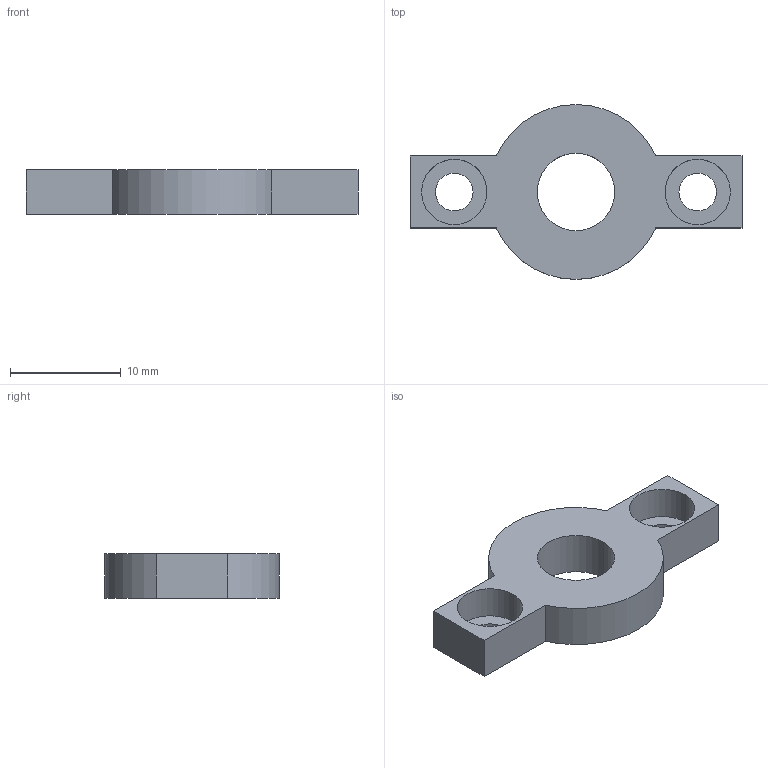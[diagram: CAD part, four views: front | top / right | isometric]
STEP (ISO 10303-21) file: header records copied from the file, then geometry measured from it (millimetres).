
FILE_DESCRIPTION((''),'2;1');
FILE_NAME('622ZZBEARINGFIX_B','2022-08-24T09:17:02',('domen.bizjak'),('Audax d.o.o.'),'CREO PARAMETRIC BY PTC INC, 2021184','CREO PARAMETRIC BY PTC INC, 2021184','');
FILE_SCHEMA(('AP242_MANAGED_MODEL_BASED_3D_ENGINEERING_MIM_LF { 1 0 10303 442 1 1 4 }'));
Length unit declared in the file: millimetre
Products named in the file (1): 622ZZBEARINGFIX_B
Bounding box: 30 x 15.8 x 4 mm (x, y, z)
Volume: 829.2 mm3; surface area: 1011.7 mm2
Topology: 1 solids, 1 shells, 22 faces, 57 edges, 42 vertices
Faces by surface type: cylinder 12, plane 10
Entity records: 1505 total; most frequent: COLOUR_RGB 319, DIRECTION 155, CARTESIAN_POINT 135, ORIENTED_EDGE 108, PRESENTATION_STYLE_ASSIGNMENT 64, STYLED_ITEM 64, AXIS2_PLACEMENT_3D 61, CURVE_STYLE 59
